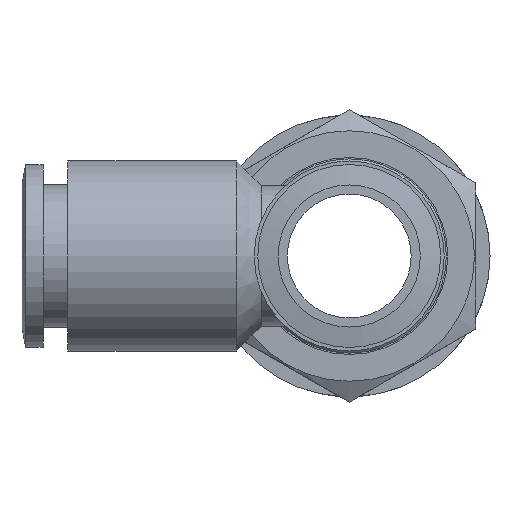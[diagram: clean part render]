
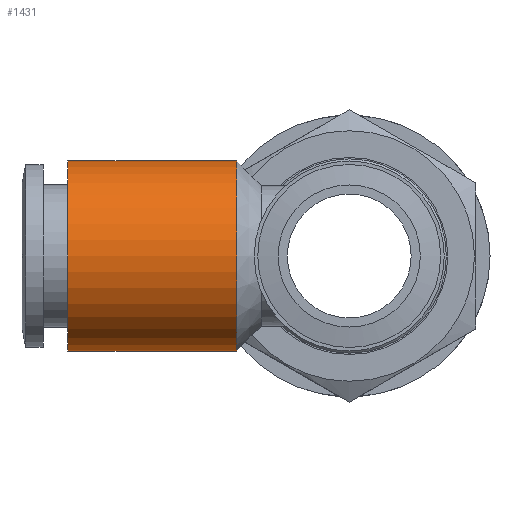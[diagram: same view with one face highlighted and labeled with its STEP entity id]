
A CAD part, left-side view. The second image highlights one B-rep face of the part: STEP entity #1431.
In plain terms, the highlighted cylindrical face has radius 6.75 mm (diameter 13.5 mm), a full revolution.
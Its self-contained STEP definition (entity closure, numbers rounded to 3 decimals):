
#1397=CARTESIAN_POINT('',(-6.75,8.,0.0));
#1398=VERTEX_POINT('',#1397);
#1399=CARTESIAN_POINT('',(0.0,8.,0.0));
#1400=DIRECTION('',(0.0,1.0,0.0));
#1401=DIRECTION('',(-1.0,0.0,0.0));
#1402=AXIS2_PLACEMENT_3D('',#1399,#1400,#1401);
#1403=CIRCLE('',#1402,6.75);
#1404=EDGE_CURVE('',#1398,#1398,#1403,.T.);
#1412=CARTESIAN_POINT('',(0.0,14.0,0.0));
#1413=DIRECTION('',(0.0,1.0,0.0));
#1414=DIRECTION('',(-1.0,0.0,0.0));
#1415=AXIS2_PLACEMENT_3D('',#1412,#1413,#1414);
#1416=CYLINDRICAL_SURFACE('',#1415,6.75);
#1417=CARTESIAN_POINT('',(-6.75,20.0,0.0));
#1418=VERTEX_POINT('',#1417);
#1419=CARTESIAN_POINT('',(0.0,20.0,0.0));
#1420=DIRECTION('',(0.0,1.0,0.0));
#1421=DIRECTION('',(-1.0,0.0,0.0));
#1422=AXIS2_PLACEMENT_3D('',#1419,#1420,#1421);
#1423=CIRCLE('',#1422,6.75);
#1424=EDGE_CURVE('',#1418,#1418,#1423,.T.);
#1425=ORIENTED_EDGE('',*,*,#1424,.F.);
#1426=EDGE_LOOP('',(#1425));
#1427=FACE_OUTER_BOUND('',#1426,.T.);
#1428=ORIENTED_EDGE('',*,*,#1404,.T.);
#1429=EDGE_LOOP('',(#1428));
#1430=FACE_BOUND('',#1429,.T.);
#1431=ADVANCED_FACE('',(#1427,#1430),#1416,.T.);
